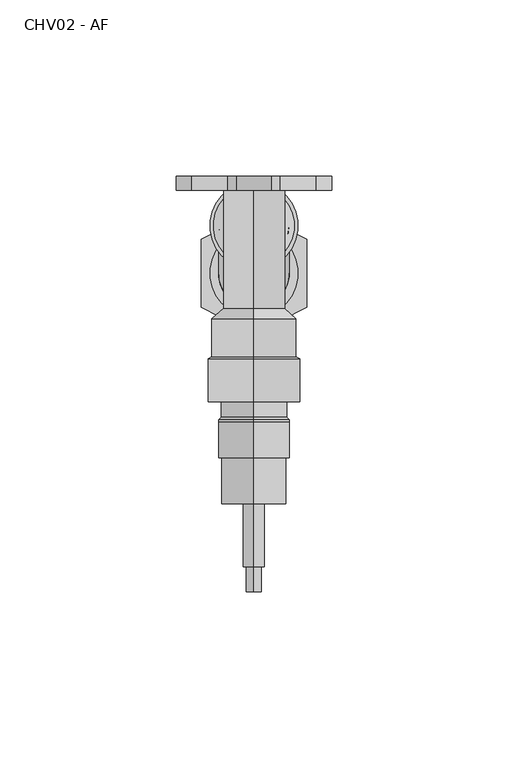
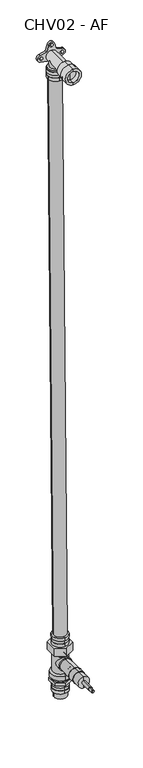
"""IFC4 building model written with IfcOpenShell, lengths in millimetres: pipe fitting geometry, CHV02 - AF : Chassi Chuveiro 02 - AF."""

from ifc_helpers import new_model, si_unit, point, frame, frame_2d, origin, origin_2d, place, context, project, spatial, polyline, circle_curve, ellipse_curve, trimmed, segment, composite_curve, outline, extrude, source, transform, mapped, element, save
from ifc_brep_helpers import plane_surface, cylinder_surface, revolved_surface, advanced_brep


def chv02_af_87dbff29(model_context):
    return source(origin(), model_context, "Body", "SolidModel", [
        advanced_brep(
        [(0.0, -24.4910234, 44.6482914), (0.0, -24.4910234, 55.0232914), (0.0, -24.4910234, 34.2732914), (0.0, -117.7176403, 42.5035697), (0.0, -117.7176403, 46.7930131), (0.0, -117.7176403, 44.6482914), (0.0, -110.6161301, 42.5035697), (0.0, -110.6161301, 46.7930131), (0.0, -110.6161301, 41.662148), (0.0, -110.6161301, 47.6344348), (0.0, -92.7176403, 41.662148), (0.0, -92.7176403, 47.6344348), (0.0, -92.7176403, 35.5095959), (0.0, -92.7176403, 53.7869869), (0.0, -79.6846586, 35.5095959), (0.0, -79.6846586, 53.7869869), (0.0, -79.6846586, 34.6395344), (0.0, -79.6846586, 54.6570485), (0.0, -69.6846586, 34.6395344), (0.0, -69.6846586, 54.6570485), (0.0, -68.8676403, 34.6395344), (0.0, -68.8676403, 54.6570485), (0.0, -68.1493117, 35.357863), (0.0, -68.1493117, 53.9387198), (0.0, -43.8022119, 35.357863), (0.0, -43.8022119, 53.9387198), (0.0, -42.7176403, 34.2732914), (0.0, -42.7176403, 55.0232914)],
        [
            (0, 1),
            (1, 2, circle_curve(frame((0.0, -24.4910234, 44.6482914), z_axis=(0.0, 1.0, 0.0), x_axis=(0.0, 0.0, 1.0)), 10.375)),
            (2, 0),
            (2, 1, circle_curve(frame((0.0, -24.4910234, 44.6482914), z_axis=(0.0, 1.0, 0.0), x_axis=(0.0, 0.0, 1.0)), 10.375)),
            (3, 4, circle_curve(frame((0.0, -117.7176403, 44.6482914), z_axis=(0.0, -1.0, 0.0), x_axis=(0.0, 0.0, 1.0)), 2.1447217)),
            (4, 5),
            (5, 3),
            (4, 3, circle_curve(frame((0.0, -117.7176403, 44.6482914), z_axis=(0.0, -1.0, 0.0), x_axis=(0.0, 0.0, 1.0)), 2.1447217)),
            (6, 7, circle_curve(frame((0.0, -110.6161301, 44.6482914), z_axis=(0.0, -1.0, 0.0), x_axis=(0.0, 0.0, 1.0)), 2.1447217)),
            (7, 4),
            (3, 6),
            (7, 6, circle_curve(frame((0.0, -110.6161301, 44.6482914), z_axis=(0.0, -1.0, 0.0), x_axis=(0.0, 0.0, 1.0)), 2.1447217)),
            (8, 9, circle_curve(frame((0.0, -110.6161301, 44.6482914), z_axis=(0.0, -1.0, 0.0), x_axis=(0.0, 0.0, 1.0)), 2.9861434)),
            (9, 7),
            (6, 8),
            (9, 8, circle_curve(frame((0.0, -110.6161301, 44.6482914), z_axis=(0.0, -1.0, 0.0), x_axis=(0.0, 0.0, 1.0)), 2.9861434)),
            (10, 11, circle_curve(frame((0.0, -92.7176403, 44.6482914), z_axis=(0.0, -1.0, 0.0), x_axis=(0.0, 0.0, 1.0)), 2.9861434)),
            (11, 9),
            (8, 10),
            (11, 10, circle_curve(frame((0.0, -92.7176403, 44.6482914), z_axis=(0.0, -1.0, 0.0), x_axis=(0.0, 0.0, 1.0)), 2.9861434)),
            (12, 13, circle_curve(frame((0.0, -92.7176403, 44.6482914), z_axis=(0.0, -1.0, 0.0), x_axis=(0.0, 0.0, 1.0)), 9.1386955)),
            (13, 11),
            (10, 12),
            (13, 12, circle_curve(frame((0.0, -92.7176403, 44.6482914), z_axis=(0.0, -1.0, 0.0), x_axis=(0.0, 0.0, 1.0)), 9.1386955)),
            (14, 15, circle_curve(frame((0.0, -79.6846586, 44.6482914), z_axis=(0.0, -1.0, 0.0), x_axis=(0.0, 0.0, 1.0)), 9.1386955)),
            (15, 13),
            (12, 14),
            (15, 14, circle_curve(frame((0.0, -79.6846586, 44.6482914), z_axis=(0.0, -1.0, 0.0), x_axis=(0.0, 0.0, 1.0)), 9.1386955)),
            (16, 17, circle_curve(frame((0.0, -79.6846586, 44.6482914), z_axis=(0.0, -1.0, 0.0), x_axis=(0.0, 0.0, 1.0)), 10.0087571)),
            (17, 15),
            (14, 16),
            (17, 16, circle_curve(frame((0.0, -79.6846586, 44.6482914), z_axis=(0.0, -1.0, 0.0), x_axis=(0.0, 0.0, 1.0)), 10.0087571)),
            (18, 19, circle_curve(frame((0.0, -69.6846586, 44.6482914), z_axis=(0.0, -1.0, 0.0), x_axis=(0.0, 0.0, 1.0)), 10.0087571)),
            (19, 17),
            (16, 18),
            (19, 18, circle_curve(frame((0.0, -69.6846586, 44.6482914), z_axis=(0.0, -1.0, 0.0), x_axis=(0.0, 0.0, 1.0)), 10.0087571)),
            (20, 21, circle_curve(frame((0.0, -68.8676403, 44.6482914), z_axis=(0.0, -1.0, 0.0), x_axis=(0.0, 0.0, 1.0)), 10.0087571)),
            (21, 19),
            (18, 20),
            (21, 20, circle_curve(frame((0.0, -68.8676403, 44.6482914), z_axis=(0.0, -1.0, 0.0), x_axis=(0.0, 0.0, 1.0)), 10.0087571)),
            (22, 23, circle_curve(frame((0.0, -68.1493117, 44.6482914), z_axis=(0.0, -1.0, 0.0), x_axis=(0.0, 0.0, 1.0)), 9.2904284)),
            (23, 21),
            (20, 22),
            (23, 22, circle_curve(frame((0.0, -68.1493117, 44.6482914), z_axis=(0.0, -1.0, 0.0), x_axis=(0.0, 0.0, 1.0)), 9.2904284)),
            (24, 25, circle_curve(frame((0.0, -43.8022119, 44.6482914), z_axis=(0.0, -1.0, 0.0), x_axis=(0.0, 0.0, 1.0)), 9.2904284)),
            (25, 23),
            (22, 24),
            (25, 24, circle_curve(frame((0.0, -43.8022119, 44.6482914), z_axis=(0.0, -1.0, 0.0), x_axis=(0.0, 0.0, 1.0)), 9.2904284)),
            (26, 27, circle_curve(frame((0.0, -42.7176403, 44.6482914), z_axis=(0.0, -1.0, 0.0), x_axis=(0.0, 0.0, 1.0)), 10.375)),
            (27, 25),
            (24, 26),
            (27, 26, circle_curve(frame((0.0, -42.7176403, 44.6482914), z_axis=(0.0, -1.0, 0.0), x_axis=(0.0, 0.0, 1.0)), 10.375)),
            (1, 27),
            (26, 2),
        ],
        [
            plane_surface(frame((0.0, -24.4910234, 44.6482914), z_axis=(0.0, 1.0, 0.0), x_axis=(0.0, 0.0, 1.0))),
            plane_surface(frame((0.0, -117.7176403, 44.6482914), z_axis=(0.0, -1.0, 0.0), x_axis=(0.0, 0.0, 1.0))),
            cylinder_surface(frame((0.0, -23.3678065, 44.6482914), z_axis=(0.0, 1.0, 0.0), x_axis=(0.0, 0.0, 1.0)), 2.1447217),
            plane_surface(frame((0.0, -110.6161301, 44.6482914), z_axis=(0.0, -1.0, 0.0), x_axis=(0.0, 0.0, 1.0))),
            cylinder_surface(frame((0.0, -23.3678065, 44.6482914), z_axis=(0.0, 1.0, 0.0), x_axis=(0.0, 0.0, 1.0)), 2.9861434),
            plane_surface(frame((0.0, -92.7176403, 44.6482914), z_axis=(0.0, -1.0, 0.0), x_axis=(0.0, 0.0, 1.0))),
            cylinder_surface(frame((0.0, -23.3678065, 44.6482914), z_axis=(0.0, 1.0, 0.0), x_axis=(0.0, 0.0, 1.0)), 9.1386955),
            plane_surface(frame((0.0, -79.6846586, 44.6482914), z_axis=(0.0, -1.0, 0.0), x_axis=(0.0, 0.0, 1.0))),
            cylinder_surface(frame((0.0, -23.3678065, 44.6482914), z_axis=(0.0, 1.0, 0.0), x_axis=(0.0, 0.0, 1.0)), 10.0087571),
            revolved_surface(polyline([(0.0, -68.8676403, 54.6570485), (0.0, -68.1493117, 53.9387198)]), (0.0, -23.3678065, 44.6482914), (0.0, 1.0, 0.0)),
            cylinder_surface(frame((0.0, -23.3678065, 44.6482914), z_axis=(0.0, 1.0, 0.0), x_axis=(0.0, 0.0, 1.0)), 9.2904284),
            revolved_surface(polyline([(0.0, -43.8022119, 53.9387198), (0.0, -42.7176403, 55.0232914)]), (0.0, -23.3678065, 44.6482914), (0.0, 1.0, 0.0)),
            cylinder_surface(frame((0.0, -23.3678065, 44.6482914), z_axis=(0.0, 1.0, 0.0), x_axis=(0.0, 0.0, 1.0)), 10.375),
        ],
        [
            (0, [[1, 2, 3]]),
            (0, [[-3, 4, -1]]),
            (1, [[5, 6, 7]]),
            (1, [[8, -7, -6]]),
            (2, [[9, 10, -5, 11]]),
            (2, [[12, -11, -8, -10]]),
            (3, [[13, 14, -9, 15]]),
            (3, [[16, -15, -12, -14]]),
            (4, [[17, 18, -13, 19]]),
            (4, [[20, -19, -16, -18]]),
            (5, [[21, 22, -17, 23]]),
            (5, [[24, -23, -20, -22]]),
            (6, [[25, 26, -21, 27]]),
            (6, [[28, -27, -24, -26]]),
            (7, [[29, 30, -25, 31]]),
            (7, [[32, -31, -28, -30]]),
            (8, [[33, 34, -29, 35]]),
            (8, [[36, -35, -32, -34]]),
            (8, [[37, 38, -33, 39]]),
            (8, [[40, -39, -36, -38]]),
            (9, [[41, 42, -37, 43]]),
            (9, [[44, -43, -40, -42]]),
            (10, [[45, 46, -41, 47]]),
            (10, [[48, -47, -44, -46]]),
            (11, [[49, 50, -45, 51]]),
            (11, [[52, -51, -48, -50]]),
            (12, [[-2, 53, -49, 54]]),
            (12, [[-4, -54, -52, -53]]),
        ],
    ),
        advanced_brep(
        [(0.0, -27.0832825, 69.7525317), (0.0, -37.7082825, 69.7525317), (0.0, -16.4582825, 69.7525317), (0.0, -16.4582825, 54.4338721), (0.0, -37.7082825, 54.4338721), (0.0, -27.0832825, 54.4338721), (0.0, -16.4582825, 60.130854), (0.0, -37.7082825, 60.130854)],
        [
            (0, 1),
            (1, 2, circle_curve(frame((0.0, -27.0832825, 69.7525317), z_axis=(0.0, 0.0, 1.0), x_axis=(0.0, -1.0, 0.0)), 10.625)),
            (2, 0),
            (2, 1, circle_curve(frame((0.0, -27.0832825, 69.7525317), z_axis=(0.0, 0.0, 1.0), x_axis=(0.0, -1.0, 0.0)), 10.625)),
            (3, 4, circle_curve(frame((0.0, -27.0832825, 54.4338721), z_axis=(0.0, 0.0, -1.0), x_axis=(0.0, -1.0, 0.0)), 10.625)),
            (4, 5),
            (5, 3),
            (4, 3, circle_curve(frame((0.0, -27.0832825, 54.4338721), z_axis=(0.0, 0.0, -1.0), x_axis=(0.0, -1.0, 0.0)), 10.625)),
            (6, 7, circle_curve(frame((0.0, -27.0832825, 60.130854), z_axis=(0.0, 0.0, -1.0), x_axis=(0.0, -1.0, 0.0)), 10.625)),
            (7, 4),
            (3, 6),
            (7, 6, circle_curve(frame((0.0, -27.0832825, 60.130854), z_axis=(0.0, 0.0, -1.0), x_axis=(0.0, -1.0, 0.0)), 10.625)),
            (1, 7),
            (6, 2),
        ],
        [
            plane_surface(frame((0.0, -27.0832825, 69.7525317), z_axis=(0.0, 0.0, 1.0), x_axis=(0.0, -1.0, 0.0))),
            plane_surface(frame((0.0, -27.0832825, 54.4338721), z_axis=(0.0, 0.0, -1.0), x_axis=(0.0, -1.0, 0.0))),
            cylinder_surface(frame((0.0, -27.0832825, 82.6346595), z_axis=(0.0, 0.0, 1.0), x_axis=(0.0, -1.0, 0.0)), 10.625),
        ],
        [
            (0, [[1, 2, 3]]),
            (0, [[-3, 4, -1]]),
            (1, [[5, 6, 7]]),
            (1, [[8, -7, -6]]),
            (2, [[9, 10, -5, 11]]),
            (2, [[12, -11, -8, -10]]),
            (2, [[-2, 13, -9, 14]]),
            (2, [[-4, -14, -12, -13]]),
        ],
    ),
        advanced_brep(
        [(0.0, -16.375, 56.4163834), (0.0, -40.075, 56.4163834), (0.0, -40.075, 27.7539392), (0.0, -16.375, 27.7539392), (0.0, -16.946055, 22.9930224), (0.0, -39.503945, 22.9930224), (0.0, -28.225, 22.9930224), (0.0, -16.946055, 18.3055097), (0.0, -39.503945, 18.3055097), (0.0, -13.125, 18.3055097), (0.0, -43.325, 18.3055097), (0.0, -13.125, 25.1984066), (0.0, -43.325, 25.1984066), (0.0, -28.225, 56.4163834)],
        [
            (0, 1, circle_curve(frame((0.0, -28.225, 56.4163834), z_axis=(0.0, 0.0, -1.0), x_axis=(0.0, -1.0, 0.0)), 11.85)),
            (1, 2),
            (2, 3, circle_curve(frame((0.0, -28.225, 27.7539392), z_axis=(0.0, 0.0, 1.0), x_axis=(0.0, -1.0, 0.0)), 11.85)),
            (3, 0),
            (1, 0, circle_curve(frame((0.0, -28.225, 56.4163834), z_axis=(0.0, 0.0, -1.0), x_axis=(0.0, -1.0, 0.0)), 11.85)),
            (3, 2, circle_curve(frame((0.0, -28.225, 27.7539392), z_axis=(0.0, 0.0, 1.0), x_axis=(0.0, -1.0, 0.0)), 11.85)),
            (4, 5, circle_curve(frame((0.0, -28.225, 22.9930224), z_axis=(0.0, 0.0, -1.0), x_axis=(0.0, -1.0, 0.0)), 11.278945)),
            (5, 6),
            (6, 4),
            (5, 4, circle_curve(frame((0.0, -28.225, 22.9930224), z_axis=(0.0, 0.0, -1.0), x_axis=(0.0, -1.0, 0.0)), 11.278945)),
            (7, 8, circle_curve(frame((0.0, -28.225, 18.3055097), z_axis=(0.0, 0.0, -1.0), x_axis=(0.0, -1.0, 0.0)), 11.278945)),
            (8, 5),
            (4, 7),
            (8, 7, circle_curve(frame((0.0, -28.225, 18.3055097), z_axis=(0.0, 0.0, -1.0), x_axis=(0.0, -1.0, 0.0)), 11.278945)),
            (9, 10, circle_curve(frame((0.0, -28.225, 18.3055097), z_axis=(0.0, 0.0, -1.0), x_axis=(0.0, -1.0, 0.0)), 15.1)),
            (10, 8),
            (7, 9),
            (10, 9, circle_curve(frame((0.0, -28.225, 18.3055097), z_axis=(0.0, 0.0, -1.0), x_axis=(0.0, -1.0, 0.0)), 15.1)),
            (11, 12, circle_curve(frame((0.0, -28.225, 25.1984066), z_axis=(0.0, 0.0, -1.0), x_axis=(0.0, -1.0, 0.0)), 15.1)),
            (12, 10),
            (9, 11),
            (12, 11, circle_curve(frame((0.0, -28.225, 25.1984066), z_axis=(0.0, 0.0, -1.0), x_axis=(0.0, -1.0, 0.0)), 15.1)),
            (2, 12),
            (11, 3),
            (13, 1),
            (0, 13),
        ],
        [
            cylinder_surface(frame((0.0, -28.225, 46.6975174), z_axis=(0.0, 0.0, 1.0), x_axis=(0.0, -1.0, 0.0)), 11.85),
            plane_surface(frame((0.0, -28.225, 22.9930224), z_axis=(0.0, 0.0, -1.0), x_axis=(0.0, -1.0, 0.0))),
            revolved_surface(polyline([(0.0, -39.503945, 22.9930224), (0.0, -39.503945, 18.3055097)]), (0.0, -28.225, 46.6975174), (0.0, 0.0, 1.0)),
            plane_surface(frame((0.0, -28.225, 18.3055097), z_axis=(0.0, 0.0, -1.0), x_axis=(0.0, -1.0, 0.0))),
            cylinder_surface(frame((0.0, -28.225, 46.6975174), z_axis=(0.0, 0.0, 1.0), x_axis=(0.0, -1.0, 0.0)), 15.1),
            revolved_surface(polyline([(0.0, -43.325, 25.1984066), (0.0, -40.075, 27.7539392)]), (0.0, -28.225, 46.6975174), (0.0, 0.0, 1.0)),
            plane_surface(frame((0.0, -28.225, 56.4163834), z_axis=(0.0, 0.0, 1.0), x_axis=(0.0, -1.0, 0.0))),
        ],
        [
            (0, [[1, 2, 3, 4]]),
            (0, [[5, -4, 6, -2]]),
            (1, [[7, 8, 9]]),
            (1, [[10, -9, -8]]),
            (2, [[11, 12, -7, 13]]),
            (2, [[14, -13, -10, -12]]),
            (3, [[15, 16, -11, 17]]),
            (3, [[18, -17, -14, -16]]),
            (4, [[19, 20, -15, 21]]),
            (4, [[22, -21, -18, -20]]),
            (5, [[-3, 23, -19, 24]]),
            (5, [[-6, -24, -22, -23]]),
            (6, [[25, -1, 26]]),
            (6, [[-26, -5, -25]]),
        ],
    ),
        advanced_brep(
        [(0.0, -37.4704065, 87.7525317), (0.0, -17.1704065, 87.7525317), (0.0, -14.8204065, 87.7525317), (0.0, -39.8204065, 87.7525317), (0.0, -37.4704065, 72.7525317), (0.0, -17.1704065, 72.7525317), (0.0, -39.8204065, 72.7525317), (0.0, -14.8204065, 72.7525317), (0.0, -14.8204065, 82.7525317), (0.0, -39.8204065, 82.7525317), (0.0, -39.8204065, 77.7525317), (0.0, -14.8204065, 77.7525317), (0.0, -15.3204065, 82.7525317), (0.0, -39.3204065, 82.7525317), (0.0, -15.3204065, 77.7525317), (0.0, -39.3204065, 77.7525317)],
        [
            (0, 1, circle_curve(frame((0.0, -27.3204065, 87.7525317), z_axis=(0.0, 0.0, -1.0), x_axis=(0.0, 1.0, 0.0)), 10.15)),
            (1, 2),
            (2, 3, circle_curve(frame((0.0, -27.3204065, 87.7525317), z_axis=(0.0, 0.0, 1.0), x_axis=(0.0, 1.0, 0.0)), 12.5)),
            (3, 0),
            (1, 0, circle_curve(frame((0.0, -27.3204065, 87.7525317), z_axis=(0.0, 0.0, -1.0), x_axis=(0.0, 1.0, 0.0)), 10.15)),
            (3, 2, circle_curve(frame((0.0, -27.3204065, 87.7525317), z_axis=(0.0, 0.0, 1.0), x_axis=(0.0, 1.0, 0.0)), 12.5)),
            (0, 4),
            (4, 5, circle_curve(frame((0.0, -27.3204065, 72.7525317), z_axis=(0.0, 0.0, -1.0), x_axis=(0.0, 1.0, 0.0)), 10.15)),
            (5, 1),
            (5, 4, circle_curve(frame((0.0, -27.3204065, 72.7525317), z_axis=(0.0, 0.0, -1.0), x_axis=(0.0, 1.0, 0.0)), 10.15)),
            (4, 6),
            (6, 7, circle_curve(frame((0.0, -27.3204065, 72.7525317), z_axis=(0.0, 0.0, -1.0), x_axis=(0.0, 1.0, 0.0)), 12.5)),
            (7, 5),
            (7, 6, circle_curve(frame((0.0, -27.3204065, 72.7525317), z_axis=(0.0, 0.0, -1.0), x_axis=(0.0, 1.0, 0.0)), 12.5)),
            (2, 8),
            (8, 9, circle_curve(frame((0.0, -27.3204065, 82.7525317), z_axis=(0.0, 0.0, 1.0), x_axis=(0.0, 1.0, 0.0)), 12.5)),
            (9, 3),
            (6, 10),
            (10, 11, circle_curve(frame((0.0, -27.3204065, 77.7525317), z_axis=(0.0, 0.0, -1.0), x_axis=(0.0, 1.0, 0.0)), 12.5)),
            (11, 7),
            (9, 8, circle_curve(frame((0.0, -27.3204065, 82.7525317), z_axis=(0.0, 0.0, 1.0), x_axis=(0.0, 1.0, 0.0)), 12.5)),
            (11, 10, circle_curve(frame((0.0, -27.3204065, 77.7525317), z_axis=(0.0, 0.0, -1.0), x_axis=(0.0, 1.0, 0.0)), 12.5)),
            (12, 13, circle_curve(frame((0.0, -27.3204065, 82.7525317), z_axis=(0.0, 0.0, 1.0), x_axis=(0.0, 1.0, 0.0)), 12.0)),
            (13, 9),
            (8, 12),
            (13, 12, circle_curve(frame((0.0, -27.3204065, 82.7525317), z_axis=(0.0, 0.0, 1.0), x_axis=(0.0, 1.0, 0.0)), 12.0)),
            (12, 14),
            (14, 15, circle_curve(frame((0.0, -27.3204065, 77.7525317), z_axis=(0.0, 0.0, 1.0), x_axis=(0.0, 1.0, 0.0)), 12.0)),
            (15, 13),
            (15, 14, circle_curve(frame((0.0, -27.3204065, 77.7525317), z_axis=(0.0, 0.0, 1.0), x_axis=(0.0, 1.0, 0.0)), 12.0)),
            (14, 11),
            (10, 15),
        ],
        [
            plane_surface(frame((0.0, -27.3204065, 87.7525317), z_axis=(0.0, 0.0, 1.0), x_axis=(0.0, 1.0, 0.0))),
            revolved_surface(polyline([(0.0, -17.1704065, 87.7525317), (0.0, -17.1704065, 72.7525317)]), (0.0, -27.3204065, 87.7525317), (0.0, 0.0, 1.0)),
            plane_surface(frame((0.0, -27.3204065, 72.7525317), z_axis=(0.0, 0.0, -1.0), x_axis=(0.0, 1.0, 0.0))),
            cylinder_surface(frame((0.0, -27.3204065, 87.7525317), z_axis=(0.0, 0.0, 1.0), x_axis=(0.0, 1.0, 0.0)), 12.5),
            plane_surface(frame((0.0, -27.3204065, 82.7525317), z_axis=(0.0, 0.0, -1.0), x_axis=(0.0, 1.0, 0.0))),
            cylinder_surface(frame((0.0, -27.3204065, 87.7525317), z_axis=(0.0, 0.0, 1.0), x_axis=(0.0, 1.0, 0.0)), 12.0),
            plane_surface(frame((0.0, -27.3204065, 77.7525317), z_axis=(0.0, 0.0, 1.0), x_axis=(0.0, 1.0, 0.0))),
        ],
        [
            (0, [[1, 2, 3, 4]]),
            (0, [[-2, 5, -4, 6]]),
            (1, [[-1, 7, 8, 9]]),
            (1, [[-5, -9, 10, -7]]),
            (2, [[-8, 11, 12, 13]]),
            (2, [[-10, -13, 14, -11]]),
            (3, [[-3, 15, 16, 17]]),
            (3, [[-12, 18, 19, 20]]),
            (3, [[-6, -17, 21, -15]]),
            (3, [[-14, -20, 22, -18]]),
            (4, [[23, 24, -16, 25]]),
            (4, [[26, -25, -21, -24]]),
            (5, [[-23, 27, 28, 29]]),
            (5, [[-26, -29, 30, -27]]),
            (6, [[-28, 31, -19, 32]]),
            (6, [[-30, -32, -22, -31]]),
        ],
    ),
        advanced_brep(
        [(0.0, -44.6408129, 59.7525317), (-15.0, -36.9986097, 59.7525317), (-15.0, -17.6422032, 59.7525317), (0.0, -10.0, 59.7525317), (15.0, -17.6422032, 59.7525317), (15.0, -36.9986097, 59.7525317), (0.0, -15.0704065, 59.7525317), (0.0, -39.5704065, 59.7525317), (0.0, -44.6408129, 72.7525317), (15.0, -36.9986097, 72.7525317), (15.0, -17.6422032, 72.7525317), (0.0, -10.0, 72.7525317), (-15.0, -17.6422032, 72.7525317), (-15.0, -36.9986097, 72.7525317), (0.0, -39.5704065, 69.7525317), (0.0, -15.0704065, 69.7525317), (0.0, -27.3204065, 69.7525317)],
        [
            (0, 1),
            (1, 2),
            (2, 3),
            (3, 4),
            (4, 5),
            (5, 0),
            (6, 7, circle_curve(frame((0.0, -27.3204065, 59.7525317), z_axis=(0.0, 0.0, 1.0), x_axis=(0.0, 1.0, 0.0)), 12.25)),
            (7, 6, circle_curve(frame((0.0, -27.3204065, 59.7525317), z_axis=(0.0, 0.0, 1.0), x_axis=(0.0, 1.0, 0.0)), 12.25)),
            (8, 9),
            (9, 10),
            (10, 11),
            (11, 12),
            (12, 13),
            (13, 8),
            (0, 8),
            (13, 1),
            (12, 2),
            (11, 3),
            (10, 4),
            (9, 5),
            (14, 7),
            (6, 15),
            (15, 14, circle_curve(frame((0.0, -27.3204065, 69.7525317), z_axis=(0.0, 0.0, 1.0), x_axis=(0.0, 1.0, 0.0)), 12.25)),
            (14, 15, circle_curve(frame((0.0, -27.3204065, 69.7525317), z_axis=(0.0, 0.0, 1.0), x_axis=(0.0, 1.0, 0.0)), 12.25)),
            (15, 16),
            (16, 14),
        ],
        [
            plane_surface(frame((0.0, -44.6408129, 59.7525317), z_axis=(0.0, 0.0, -1.0), x_axis=(-0.8910228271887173, 0.45395850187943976, 0.0))),
            plane_surface(frame((0.0, -44.6408129, 72.7525317), z_axis=(0.0, 0.0, 1.0), x_axis=(0.8910228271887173, -0.45395850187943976, 0.0))),
            plane_surface(frame((0.0, -44.6408129, 59.7525317), z_axis=(-0.45395850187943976, -0.8910228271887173, 0.0), x_axis=(0.0, 0.0, 1.0))),
            plane_surface(frame((-15.0, -36.9986097, 59.7525317), z_axis=(-1.0, 0.0, 0.0), x_axis=(0.0, 0.0, 1.0))),
            plane_surface(frame((-15.0, -17.6422032, 59.7525317), z_axis=(-0.4539585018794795, 0.891022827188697, 0.0), x_axis=(0.0, 0.0, 1.0))),
            plane_surface(frame((0.0, -10.0, 59.7525317), z_axis=(0.4539585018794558, 0.8910228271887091, 0.0), x_axis=(0.0, 0.0, 1.0))),
            plane_surface(frame((15.0, -17.6422032, 59.7525317), z_axis=(1.0, 0.0, 0.0), x_axis=(0.0, 0.0, 1.0))),
            plane_surface(frame((15.0, -36.9986097, 59.7525317), z_axis=(0.45395850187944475, -0.8910228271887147, 0.0), x_axis=(0.0, 0.0, 1.0))),
            revolved_surface(polyline([(0.0, -15.0704065, 69.7525317), (0.0, -15.0704065, 59.7525317)]), (0.0, -27.3204065, 69.7525317), (0.0, 0.0, 1.0)),
            plane_surface(frame((0.0, -27.3204065, 69.7525317), z_axis=(0.0, 0.0, -1.0), x_axis=(0.0, 1.0, 0.0))),
        ],
        [
            (0, [[1, 2, 3, 4, 5, 6], [7, 8]]),
            (1, [[9, 10, 11, 12, 13, 14]]),
            (2, [[-1, 15, -14, 16]]),
            (3, [[-2, -16, -13, 17]]),
            (4, [[-3, -17, -12, 18]]),
            (5, [[-4, -18, -11, 19]]),
            (6, [[-5, -19, -10, 20]]),
            (7, [[-6, -20, -9, -15]]),
            (8, [[21, -7, 22, 23]]),
            (8, [[-21, 24, -22, -8]]),
            (9, [[-23, 25, 26]]),
            (9, [[-24, -26, -25]]),
        ],
    ),
        advanced_brep(
        [(0.0, -38.2384573, -5.6015934), (0.0, -17.9384573, -5.6015934), (0.0, -15.5884573, -5.6015934), (0.0, -40.5884573, -5.6015934), (0.0, -38.2384573, 9.3984066), (0.0, -17.9384573, 9.3984066), (0.0, -40.5884573, 9.3984066), (0.0, -15.5884573, 9.3984066), (0.0, -15.5884573, -0.6015934), (0.0, -40.5884573, -0.6015934), (0.0, -40.5884573, 4.3984066), (0.0, -15.5884573, 4.3984066), (0.0, -16.0884573, -0.6015934), (0.0, -40.0884573, -0.6015934), (0.0, -16.0884573, 4.3984066), (0.0, -40.0884573, 4.3984066)],
        [
            (0, 1, circle_curve(frame((0.0, -28.0884573, -5.6015934), z_axis=(0.0, 0.0, 1.0), x_axis=(0.0, 1.0, 0.0)), 10.15)),
            (1, 2),
            (2, 3, circle_curve(frame((0.0, -28.0884573, -5.6015934), z_axis=(0.0, 0.0, -1.0), x_axis=(0.0, 1.0, 0.0)), 12.5)),
            (3, 0),
            (1, 0, circle_curve(frame((0.0, -28.0884573, -5.6015934), z_axis=(0.0, 0.0, 1.0), x_axis=(0.0, 1.0, 0.0)), 10.15)),
            (3, 2, circle_curve(frame((0.0, -28.0884573, -5.6015934), z_axis=(0.0, 0.0, -1.0), x_axis=(0.0, 1.0, 0.0)), 12.5)),
            (0, 4),
            (4, 5, circle_curve(frame((0.0, -28.0884573, 9.3984066), z_axis=(0.0, 0.0, 1.0), x_axis=(0.0, 1.0, 0.0)), 10.15)),
            (5, 1),
            (5, 4, circle_curve(frame((0.0, -28.0884573, 9.3984066), z_axis=(0.0, 0.0, 1.0), x_axis=(0.0, 1.0, 0.0)), 10.15)),
            (4, 6),
            (6, 7, circle_curve(frame((0.0, -28.0884573, 9.3984066), z_axis=(0.0, 0.0, 1.0), x_axis=(0.0, 1.0, 0.0)), 12.5)),
            (7, 5),
            (7, 6, circle_curve(frame((0.0, -28.0884573, 9.3984066), z_axis=(0.0, 0.0, 1.0), x_axis=(0.0, 1.0, 0.0)), 12.5)),
            (2, 8),
            (8, 9, circle_curve(frame((0.0, -28.0884573, -0.6015934), z_axis=(0.0, 0.0, -1.0), x_axis=(0.0, 1.0, 0.0)), 12.5)),
            (9, 3),
            (6, 10),
            (10, 11, circle_curve(frame((0.0, -28.0884573, 4.3984066), z_axis=(0.0, 0.0, 1.0), x_axis=(0.0, 1.0, 0.0)), 12.5)),
            (11, 7),
            (9, 8, circle_curve(frame((0.0, -28.0884573, -0.6015934), z_axis=(0.0, 0.0, -1.0), x_axis=(0.0, 1.0, 0.0)), 12.5)),
            (11, 10, circle_curve(frame((0.0, -28.0884573, 4.3984066), z_axis=(0.0, 0.0, 1.0), x_axis=(0.0, 1.0, 0.0)), 12.5)),
            (12, 13, circle_curve(frame((0.0, -28.0884573, -0.6015934), z_axis=(0.0, 0.0, -1.0), x_axis=(0.0, 1.0, 0.0)), 12.0)),
            (13, 9),
            (8, 12),
            (13, 12, circle_curve(frame((0.0, -28.0884573, -0.6015934), z_axis=(0.0, 0.0, -1.0), x_axis=(0.0, 1.0, 0.0)), 12.0)),
            (12, 14),
            (14, 15, circle_curve(frame((0.0, -28.0884573, 4.3984066), z_axis=(0.0, 0.0, -1.0), x_axis=(0.0, 1.0, 0.0)), 12.0)),
            (15, 13),
            (15, 14, circle_curve(frame((0.0, -28.0884573, 4.3984066), z_axis=(0.0, 0.0, -1.0), x_axis=(0.0, 1.0, 0.0)), 12.0)),
            (14, 11),
            (10, 15),
        ],
        [
            plane_surface(frame((0.0, -28.0884573, -5.6015934), z_axis=(0.0, 0.0, -1.0), x_axis=(0.0, 1.0, 0.0))),
            revolved_surface(polyline([(0.0, -17.938457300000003, -5.6015934), (0.0, -17.938457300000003, 9.398406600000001)]), (0.0, -28.0884573, -5.6015934), (0.0, 0.0, -1.0)),
            plane_surface(frame((0.0, -28.0884573, 9.3984066), z_axis=(0.0, 0.0, 1.0), x_axis=(0.0, 1.0, 0.0))),
            cylinder_surface(frame((0.0, -28.0884573, -5.6015934), z_axis=(0.0, 0.0, -1.0), x_axis=(0.0, 1.0, 0.0)), 12.5),
            plane_surface(frame((0.0, -28.0884573, -0.6015934), z_axis=(0.0, 0.0, 1.0), x_axis=(0.0, 1.0, 0.0))),
            cylinder_surface(frame((0.0, -28.0884573, -5.6015934), z_axis=(0.0, 0.0, -1.0), x_axis=(0.0, 1.0, 0.0)), 12.0),
            plane_surface(frame((0.0, -28.0884573, 4.3984066), z_axis=(0.0, 0.0, -1.0), x_axis=(0.0, 1.0, 0.0))),
        ],
        [
            (0, [[1, 2, 3, 4]]),
            (0, [[-2, 5, -4, 6]]),
            (1, [[-1, 7, 8, 9]]),
            (1, [[-5, -9, 10, -7]]),
            (2, [[-8, 11, 12, 13]]),
            (2, [[-10, -13, 14, -11]]),
            (3, [[-3, 15, 16, 17]]),
            (3, [[-12, 18, 19, 20]]),
            (3, [[-6, -17, 21, -15]]),
            (3, [[-14, -20, 22, -18]]),
            (4, [[23, 24, -16, 25]]),
            (4, [[26, -25, -21, -24]]),
            (5, [[-23, 27, 28, 29]]),
            (5, [[-26, -29, 30, -27]]),
            (6, [[-28, 31, -19, 32]]),
            (6, [[-30, -32, -22, -31]]),
        ],
    ),
        extrude(outline(polyline([(0.0, -43.6769145), (-13.5, -35.8826859), (-13.5, -20.2942286), (0.0, -12.5), (13.5, -20.2942286), (13.5, -35.8826859), (0.0, -43.6769145)])), frame((0.0, 0.0, 9.3984066), z_axis=(0.0, 0.0, 1.0), x_axis=(1.0, 0.0, 0.0)), (0.0, 0.0, 1.0), 5.0),
        advanced_brep(
        [(0.0, -41.2384573, 14.3984066), (0.0, -14.9384573, 14.3984066), (0.0, -14.9384573, 25.1984066), (0.0, -41.2384573, 25.1984066), (0.0, -38.4384573, 14.3984066), (0.0, -17.7384573, 14.3984066), (0.0, -38.4384573, 26.3984066), (0.0, -17.7384573, 26.3984066), (0.0, -40.0384573, 26.3984066), (0.0, -16.1384573, 26.3984066)],
        [
            (0, 1, circle_curve(frame((0.0, -28.0884573, 14.3984066), z_axis=(0.0, 0.0, 1.0), x_axis=(0.0, 1.0, 0.0)), 13.15)),
            (1, 2),
            (2, 3, circle_curve(frame((0.0, -28.0884573, 25.1984066), z_axis=(0.0, 0.0, -1.0), x_axis=(0.0, 1.0, 0.0)), 13.15)),
            (3, 0),
            (1, 0, circle_curve(frame((0.0, -28.0884573, 14.3984066), z_axis=(0.0, 0.0, 1.0), x_axis=(0.0, 1.0, 0.0)), 13.15)),
            (3, 2, circle_curve(frame((0.0, -28.0884573, 25.1984066), z_axis=(0.0, 0.0, -1.0), x_axis=(0.0, 1.0, 0.0)), 13.15)),
            (4, 5, circle_curve(frame((0.0, -28.0884573, 14.3984066), z_axis=(0.0, 0.0, 1.0), x_axis=(0.0, 1.0, 0.0)), 10.35)),
            (5, 1),
            (0, 4),
            (5, 4, circle_curve(frame((0.0, -28.0884573, 14.3984066), z_axis=(0.0, 0.0, 1.0), x_axis=(0.0, 1.0, 0.0)), 10.35)),
            (6, 7, circle_curve(frame((0.0, -28.0884573, 26.3984066), z_axis=(0.0, 0.0, 1.0), x_axis=(0.0, 1.0, 0.0)), 10.35)),
            (7, 5),
            (4, 6),
            (7, 6, circle_curve(frame((0.0, -28.0884573, 26.3984066), z_axis=(0.0, 0.0, 1.0), x_axis=(0.0, 1.0, 0.0)), 10.35)),
            (8, 9, circle_curve(frame((0.0, -28.0884573, 26.3984066), z_axis=(0.0, 0.0, 1.0), x_axis=(0.0, 1.0, 0.0)), 11.95)),
            (9, 7),
            (6, 8),
            (9, 8, circle_curve(frame((0.0, -28.0884573, 26.3984066), z_axis=(0.0, 0.0, 1.0), x_axis=(0.0, 1.0, 0.0)), 11.95)),
            (2, 9),
            (8, 3),
        ],
        [
            cylinder_surface(frame((0.0, -28.0884573, 14.3984066), z_axis=(0.0, 0.0, -1.0), x_axis=(0.0, 1.0, 0.0)), 13.15),
            plane_surface(frame((0.0, -28.0884573, 14.3984066), z_axis=(0.0, 0.0, -1.0), x_axis=(0.0, 1.0, 0.0))),
            revolved_surface(polyline([(0.0, -17.7384573, 14.3984066), (0.0, -17.7384573, 26.3984066)]), (0.0, -28.0884573, 14.3984066), (0.0, 0.0, -1.0)),
            plane_surface(frame((0.0, -28.0884573, 26.3984066), z_axis=(0.0, 0.0, 1.0), x_axis=(0.0, 1.0, 0.0))),
            revolved_surface(polyline([(0.0, -16.1384573, 26.3984066), (0.0, -14.9384573, 25.1984066)]), (0.0, -28.0884573, 14.3984066), (0.0, 0.0, -1.0)),
        ],
        [
            (0, [[1, 2, 3, 4]]),
            (0, [[5, -4, 6, -2]]),
            (1, [[7, 8, -1, 9]]),
            (1, [[10, -9, -5, -8]]),
            (2, [[11, 12, -7, 13]]),
            (2, [[14, -13, -10, -12]]),
            (3, [[15, 16, -11, 17]]),
            (3, [[18, -17, -14, -16]]),
            (4, [[-3, 19, -15, 20]]),
            (4, [[-6, -20, -18, -19]]),
        ],
    ),
        advanced_brep(
        [(0.0, -25.475, 1034.2016988), (0.0, -25.475, 1030.2016988), (0.0, -2.525, 1030.2016988), (0.0, -2.525, 1034.2016988), (0.0, -5.325, 1035.1016988), (0.0, -22.675, 1035.1016988), (0.0, -5.325, 1037.5266988), (8.675, -14.0, 1046.2016988), (0.0, -22.675, 1037.5266988), (-8.675, -14.0, 1046.2016988), (0.0, -14.0, 1030.2016988), (0.0, -64.0, 1036.7016988), (0.0, -64.0, 1033.2016988), (0.0, -64.0, 1059.2016988), (0.0, -64.0, 1055.7016988), (0.0, -56.0, 1055.7016988), (0.0, -56.0, 1036.7016988), (0.0, -4.0, 1037.5266988), (0.0, -4.0, 1046.2016988), (0.0, -4.0, 1054.8766988), (0.0, -37.5, 1054.8766988), (0.0, -37.5, 1037.5266988), (0.0, -40.5, 1058.2016988), (0.0, -40.5, 1034.2016988), (0.0, -51.2, 1058.2016988), (0.0, -51.2, 1034.2016988), (0.0, -51.7773503, 1059.2016988), (0.0, -51.7773503, 1033.2016988), (0.0, -56.0, 1046.2016988)],
        [
            (0, 1),
            (1, 2, circle_curve(frame((0.0, -14.0, 1030.2016988), z_axis=(0.0, 0.0, 1.0), x_axis=(0.0, 1.0, 0.0)), 11.475)),
            (2, 3),
            (3, 0, circle_curve(frame((0.0, -14.0, 1034.2016988), z_axis=(0.0, 0.0, -1.0), x_axis=(0.0, 1.0, 0.0)), 11.475)),
            (2, 1, circle_curve(frame((0.0, -14.0, 1030.2016988), z_axis=(0.0, 0.0, 1.0), x_axis=(0.0, 1.0, 0.0)), 11.475)),
            (0, 3, circle_curve(frame((0.0, -14.0, 1034.2016988), z_axis=(0.0, 0.0, -1.0), x_axis=(0.0, 1.0, 0.0)), 11.475)),
            (3, 4),
            (4, 5, circle_curve(frame((0.0, -14.0, 1035.1016988), z_axis=(0.0, 0.0, -1.0), x_axis=(0.0, 1.0, 0.0)), 8.675)),
            (5, 0),
            (5, 4, circle_curve(frame((0.0, -14.0, 1035.1016988), z_axis=(0.0, 0.0, -1.0), x_axis=(0.0, 1.0, 0.0)), 8.675)),
            (4, 6),
            (6, 7, ellipse_curve(frame((0.0, -14.0, 1046.2016988), z_axis=(0.0, -0.7071067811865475, -0.7071067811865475), x_axis=(0.0, -0.7071067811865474, 0.7071067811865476)), 12.2683027, 8.675)),
            (7, 8, ellipse_curve(frame((0.0, -14.0, 1046.2016988), z_axis=(0.0, 0.7071067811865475, -0.7071067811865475), x_axis=(0.0, 0.7071067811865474, 0.7071067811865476)), 12.2683027, 8.675)),
            (8, 5),
            (8, 9, ellipse_curve(frame((0.0, -14.0, 1046.2016988), z_axis=(0.0, 0.7071067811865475, -0.7071067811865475), x_axis=(0.0, 0.7071067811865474, 0.7071067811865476)), 12.2683027, 8.675)),
            (9, 6, ellipse_curve(frame((0.0, -14.0, 1046.2016988), z_axis=(0.0, -0.7071067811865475, -0.7071067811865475), x_axis=(0.0, -0.7071067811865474, 0.7071067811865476)), 12.2683027, 8.675)),
            (1, 10),
            (10, 2),
            (11, 12),
            (12, 13, circle_curve(frame((0.0, -64.0, 1046.2016988), z_axis=(0.0, -1.0, 0.0), x_axis=(0.0, 0.0, 1.0)), 13.0)),
            (13, 14),
            (14, 11, circle_curve(frame((0.0, -64.0, 1046.2016988), z_axis=(0.0, 1.0, 0.0), x_axis=(0.0, 0.0, 1.0)), 9.5)),
            (13, 12, circle_curve(frame((0.0, -64.0, 1046.2016988), z_axis=(0.0, -1.0, 0.0), x_axis=(0.0, 0.0, 1.0)), 13.0)),
            (11, 14, circle_curve(frame((0.0, -64.0, 1046.2016988), z_axis=(0.0, 1.0, 0.0), x_axis=(0.0, 0.0, 1.0)), 9.5)),
            (14, 15),
            (15, 16, circle_curve(frame((0.0, -56.0, 1046.2016988), z_axis=(0.0, 1.0, 0.0), x_axis=(0.0, 0.0, 1.0)), 9.5)),
            (16, 11),
            (16, 15, circle_curve(frame((0.0, -56.0, 1046.2016988), z_axis=(0.0, 1.0, 0.0), x_axis=(0.0, 0.0, 1.0)), 9.5)),
            (17, 18),
            (18, 19),
            (19, 17, circle_curve(frame((0.0, -4.0, 1046.2016988), z_axis=(0.0, 1.0, 0.0), x_axis=(0.0, 0.0, 1.0)), 8.675)),
            (17, 19, circle_curve(frame((0.0, -4.0, 1046.2016988), z_axis=(0.0, 1.0, 0.0), x_axis=(0.0, 0.0, 1.0)), 8.675)),
            (19, 20),
            (20, 21, circle_curve(frame((0.0, -37.5, 1046.2016988), z_axis=(0.0, 1.0, 0.0), x_axis=(0.0, 0.0, 1.0)), 8.675)),
            (21, 8),
            (6, 17),
            (21, 20, circle_curve(frame((0.0, -37.5, 1046.2016988), z_axis=(0.0, 1.0, 0.0), x_axis=(0.0, 0.0, 1.0)), 8.675)),
            (20, 22),
            (22, 23, circle_curve(frame((0.0, -40.5, 1046.2016988), z_axis=(0.0, 1.0, 0.0), x_axis=(0.0, 0.0, 1.0)), 12.0)),
            (23, 21),
            (23, 22, circle_curve(frame((0.0, -40.5, 1046.2016988), z_axis=(0.0, 1.0, 0.0), x_axis=(0.0, 0.0, 1.0)), 12.0)),
            (22, 24),
            (24, 25, circle_curve(frame((0.0, -51.2, 1046.2016988), z_axis=(0.0, 1.0, 0.0), x_axis=(0.0, 0.0, 1.0)), 12.0)),
            (25, 23),
            (25, 24, circle_curve(frame((0.0, -51.2, 1046.2016988), z_axis=(0.0, 1.0, 0.0), x_axis=(0.0, 0.0, 1.0)), 12.0)),
            (24, 26),
            (26, 27, circle_curve(frame((0.0, -51.7773503, 1046.2016988), z_axis=(0.0, 1.0, 0.0), x_axis=(0.0, 0.0, 1.0)), 13.0)),
            (27, 25),
            (27, 26, circle_curve(frame((0.0, -51.7773503, 1046.2016988), z_axis=(0.0, 1.0, 0.0), x_axis=(0.0, 0.0, 1.0)), 13.0)),
            (12, 27),
            (26, 13),
            (15, 28),
            (28, 16),
        ],
        [
            cylinder_surface(frame((0.0, -14.0, 1030.2016988), z_axis=(0.0, 0.0, 1.0), x_axis=(0.0, 1.0, 0.0)), 11.475),
            revolved_surface(polyline([(0.0, -2.525, 1034.2016988), (0.0, -5.325, 1035.1016988)]), (0.0, -14.0, 1030.2016988), (0.0, 0.0, 1.0)),
            cylinder_surface(frame((0.0, -14.0, 1030.2016988), z_axis=(0.0, 0.0, 1.0), x_axis=(0.0, 1.0, 0.0)), 8.675),
            plane_surface(frame((0.0, -14.0, 1030.2016988), z_axis=(0.0, 0.0, -1.0), x_axis=(0.0, 1.0, 0.0))),
            plane_surface(frame((0.0, -64.0, 1046.2016988), z_axis=(0.0, -1.0, 0.0), x_axis=(0.0, 0.0, 1.0))),
            revolved_surface(polyline([(0.0, -64.0, 1055.7016988), (0.0, -56.0, 1055.7016988)]), (0.0, -4.0, 1046.2016988), (0.0, -1.0, 0.0)),
            plane_surface(frame((0.0, -4.0, 1046.2016988), z_axis=(0.0, 1.0, 0.0), x_axis=(0.0, 0.0, 1.0))),
            cylinder_surface(frame((0.0, -4.0, 1046.2016988), z_axis=(0.0, -1.0, 0.0), x_axis=(0.0, 0.0, 1.0)), 8.675),
            revolved_surface(polyline([(0.0, -37.5, 1054.8766988), (0.0, -40.5, 1058.2016988)]), (0.0, -4.0, 1046.2016988), (0.0, -1.0, 0.0)),
            cylinder_surface(frame((0.0, -4.0, 1046.2016988), z_axis=(0.0, -1.0, 0.0), x_axis=(0.0, 0.0, 1.0)), 12.0),
            revolved_surface(polyline([(0.0, -51.2, 1058.2016988), (0.0, -51.7773503, 1059.2016988)]), (0.0, -4.0, 1046.2016988), (0.0, -1.0, 0.0)),
            cylinder_surface(frame((0.0, -4.0, 1046.2016988), z_axis=(0.0, -1.0, 0.0), x_axis=(0.0, 0.0, 1.0)), 13.0),
            plane_surface(frame((0.0, -56.0, 1046.2016988), z_axis=(0.0, -1.0, 0.0), x_axis=(0.0, 0.0, 1.0))),
        ],
        [
            (0, [[1, 2, 3, 4]]),
            (0, [[5, -1, 6, -3]]),
            (1, [[7, 8, 9, -4]]),
            (1, [[-9, 10, -7, -6]]),
            (2, [[11, 12, 13, 14, -8]]),
            (2, [[-14, 15, 16, -11, -10]]),
            (3, [[17, 18, -2]]),
            (3, [[-18, -17, -5]]),
            (4, [[19, 20, 21, 22]]),
            (4, [[23, -19, 24, -21]]),
            (5, [[25, 26, 27, -22]]),
            (5, [[-27, 28, -25, -24]]),
            (6, [[29, 30, 31]]),
            (6, [[-29, 32, -30]]),
            (7, [[33, 34, 35, -13, -12, 36, -31]]),
            (7, [[-36, -16, -15, -35, 37, -33, -32]]),
            (8, [[38, 39, 40, -34]]),
            (8, [[-40, 41, -38, -37]]),
            (9, [[42, 43, 44, -39]]),
            (9, [[-44, 45, -42, -41]]),
            (10, [[46, 47, 48, -43]]),
            (10, [[-48, 49, -46, -45]]),
            (11, [[50, -47, 51, -20]]),
            (11, [[-51, -49, -50, -23]]),
            (12, [[52, 53, -26]]),
            (12, [[-53, -52, -28]]),
        ],
    ),
        extrude(outline(composite_curve([segment(polyline([(1040.8059051, -17.6155562), (1037.6170131, -1.2485179)]), True, "CONTINUOUS"), segment(trimmed(circle_curve(frame_2d((1046.2016988, 0.0)), 8.675), [point((1037.6170131, -1.2485179))], [point((1037.6170131, 1.2485179))], False, "CARTESIAN"), True, "CONTINUOUS"), segment(polyline([(1037.6170131, 1.2485179), (1040.8059051, 17.6155562)]), True, "CONTINUOUS"), segment(trimmed(circle_curve(frame_2d((1046.2016988, 16.55)), 5.5), [point((1040.8059051, 17.6155562))], [point((1051.5967232, 17.6194444))], False, "CARTESIAN"), True, "CONTINUOUS"), segment(polyline([(1051.5967232, 17.6194444), (1054.319583, 7.4774357), (1064.3128099, 4.8749802)]), True, "CONTINUOUS"), segment(trimmed(circle_curve(frame_2d((1063.2016988, 0.0)), 5.0), [point((1064.3128099, 4.8749802))], [point((1064.3128099, -4.8749802))], False, "CARTESIAN"), True, "CONTINUOUS"), segment(polyline([(1064.3128099, -4.8749802), (1054.319583, -7.4774357), (1051.5967232, -17.6194444)]), True, "CONTINUOUS"), segment(trimmed(circle_curve(frame_2d((1046.2016988, -16.55)), 5.5), [point((1051.5967232, -17.6194444))], [point((1040.8059051, -17.6155562))], False, "CARTESIAN"), True, "CONTINUOUS")], self_intersect=False), holes=[composite_curve([segment(trimmed(circle_curve(frame_2d((1046.2016988, -16.55)), 2.5), [point((1043.7016988, -16.55))], [point((1048.7016988, -16.55))], True, "CARTESIAN"), True, "CONTINUOUS"), segment(trimmed(circle_curve(frame_2d((1046.2016988, -16.55)), 2.5), [point((1048.7016988, -16.55))], [point((1043.7016988, -16.55))], True, "CARTESIAN"), True, "CONTINUOUS")], self_intersect=False), composite_curve([segment(trimmed(circle_curve(frame_2d((1046.2016988, 16.55)), 2.5), [point((1043.7016988, 16.55))], [point((1048.7016988, 16.55))], True, "CARTESIAN"), True, "CONTINUOUS"), segment(trimmed(circle_curve(frame_2d((1046.2016988, 16.55)), 2.5), [point((1048.7016988, 16.55))], [point((1043.7016988, 16.55))], True, "CARTESIAN"), True, "CONTINUOUS")], self_intersect=False), composite_curve([segment(trimmed(circle_curve(frame_2d((1063.2016988, 0.0)), 2.5), [point((1060.7016988, 0.0))], [point((1065.7016988, 0.0))], True, "CARTESIAN"), True, "CONTINUOUS"), segment(trimmed(circle_curve(frame_2d((1063.2016988, 0.0)), 2.5), [point((1065.7016988, 0.0))], [point((1060.7016988, 0.0))], True, "CARTESIAN"), True, "CONTINUOUS")], self_intersect=False)]), frame((0.0, -4.0, 0.0), z_axis=(0.0, 1.0, 0.0), x_axis=(0.0, 0.0, 1.0)), (0.0, 0.0, 1.0), 4.0),
        advanced_brep(
        [(0.0, -3.85, 1017.2016988), (0.0, -1.5, 1017.2016988), (0.0, -26.5, 1017.2016988), (0.0, -24.15, 1017.2016988), (0.0, -24.15, 1032.2016988), (0.0, -3.85, 1032.2016988), (0.0, -26.5, 1032.2016988), (0.0, -1.5, 1032.2016988), (0.0, -1.5, 1022.2016988), (0.0, -26.5, 1022.2016988), (0.0, -26.5, 1027.2016988), (0.0, -1.5, 1027.2016988), (0.0, -26.0, 1022.2016988), (0.0, -2.0, 1022.2016988), (0.0, -2.0, 1027.2016988), (0.0, -26.0, 1027.2016988)],
        [
            (0, 1),
            (1, 2, circle_curve(frame((0.0, -14.0, 1017.2016988), z_axis=(0.0, 0.0, -1.0), x_axis=(0.0, -1.0, 0.0)), 12.5)),
            (2, 3),
            (3, 0, circle_curve(frame((0.0, -14.0, 1017.2016988), z_axis=(0.0, 0.0, 1.0), x_axis=(0.0, -1.0, 0.0)), 10.15)),
            (2, 1, circle_curve(frame((0.0, -14.0, 1017.2016988), z_axis=(0.0, 0.0, -1.0), x_axis=(0.0, -1.0, 0.0)), 12.5)),
            (0, 3, circle_curve(frame((0.0, -14.0, 1017.2016988), z_axis=(0.0, 0.0, 1.0), x_axis=(0.0, -1.0, 0.0)), 10.15)),
            (3, 4),
            (4, 5, circle_curve(frame((0.0, -14.0, 1032.2016988), z_axis=(0.0, 0.0, 1.0), x_axis=(0.0, -1.0, 0.0)), 10.15)),
            (5, 0),
            (5, 4, circle_curve(frame((0.0, -14.0, 1032.2016988), z_axis=(0.0, 0.0, 1.0), x_axis=(0.0, -1.0, 0.0)), 10.15)),
            (4, 6),
            (6, 7, circle_curve(frame((0.0, -14.0, 1032.2016988), z_axis=(0.0, 0.0, 1.0), x_axis=(0.0, -1.0, 0.0)), 12.5)),
            (7, 5),
            (7, 6, circle_curve(frame((0.0, -14.0, 1032.2016988), z_axis=(0.0, 0.0, 1.0), x_axis=(0.0, -1.0, 0.0)), 12.5)),
            (1, 8),
            (8, 9, circle_curve(frame((0.0, -14.0, 1022.2016988), z_axis=(0.0, 0.0, -1.0), x_axis=(0.0, -1.0, 0.0)), 12.5)),
            (9, 2),
            (6, 10),
            (10, 11, circle_curve(frame((0.0, -14.0, 1027.2016988), z_axis=(0.0, 0.0, 1.0), x_axis=(0.0, -1.0, 0.0)), 12.5)),
            (11, 7),
            (9, 8, circle_curve(frame((0.0, -14.0, 1022.2016988), z_axis=(0.0, 0.0, -1.0), x_axis=(0.0, -1.0, 0.0)), 12.5)),
            (11, 10, circle_curve(frame((0.0, -14.0, 1027.2016988), z_axis=(0.0, 0.0, 1.0), x_axis=(0.0, -1.0, 0.0)), 12.5)),
            (12, 9),
            (8, 13),
            (13, 12, circle_curve(frame((0.0, -14.0, 1022.2016988), z_axis=(0.0, 0.0, -1.0), x_axis=(0.0, -1.0, 0.0)), 12.0)),
            (12, 13, circle_curve(frame((0.0, -14.0, 1022.2016988), z_axis=(0.0, 0.0, -1.0), x_axis=(0.0, -1.0, 0.0)), 12.0)),
            (13, 14),
            (14, 15, circle_curve(frame((0.0, -14.0, 1027.2016988), z_axis=(0.0, 0.0, -1.0), x_axis=(0.0, -1.0, 0.0)), 12.0)),
            (15, 12),
            (15, 14, circle_curve(frame((0.0, -14.0, 1027.2016988), z_axis=(0.0, 0.0, -1.0), x_axis=(0.0, -1.0, 0.0)), 12.0)),
            (14, 11),
            (10, 15),
        ],
        [
            plane_surface(frame((0.0, -14.0, 1017.2016988), z_axis=(0.0, 0.0, -1.0), x_axis=(0.0, -1.0, 0.0))),
            revolved_surface(polyline([(0.0, -24.15, 1017.2016988), (0.0, -24.15, 1032.2016988)]), (0.0, -14.0, 1017.2016988), (0.0, 0.0, -1.0)),
            plane_surface(frame((0.0, -14.0, 1032.2016988), z_axis=(0.0, 0.0, 1.0), x_axis=(0.0, -1.0, 0.0))),
            cylinder_surface(frame((0.0, -14.0, 1017.2016988), z_axis=(0.0, 0.0, -1.0), x_axis=(0.0, -1.0, 0.0)), 12.5),
            plane_surface(frame((0.0, -14.0, 1022.2016988), z_axis=(0.0, 0.0, 1.0), x_axis=(0.0, -1.0, 0.0))),
            cylinder_surface(frame((0.0, -14.0, 1017.2016988), z_axis=(0.0, 0.0, -1.0), x_axis=(0.0, -1.0, 0.0)), 12.0),
            plane_surface(frame((0.0, -14.0, 1027.2016988), z_axis=(0.0, 0.0, -1.0), x_axis=(0.0, -1.0, 0.0))),
        ],
        [
            (0, [[1, 2, 3, 4]]),
            (0, [[5, -1, 6, -3]]),
            (1, [[7, 8, 9, -4]]),
            (1, [[-9, 10, -7, -6]]),
            (2, [[11, 12, 13, -8]]),
            (2, [[-13, 14, -11, -10]]),
            (3, [[15, 16, 17, -2]]),
            (3, [[18, 19, 20, -12]]),
            (3, [[-17, 21, -15, -5]]),
            (3, [[-20, 22, -18, -14]]),
            (4, [[23, -16, 24, 25]]),
            (4, [[-24, -21, -23, 26]]),
            (5, [[27, 28, 29, -25]]),
            (5, [[-29, 30, -27, -26]]),
            (6, [[31, -19, 32, -28]]),
            (6, [[-32, -22, -31, -30]]),
        ],
    ),
        extrude(outline(composite_curve([segment(trimmed(circle_curve(frame_2d((0.0, -28.0884573)), 10.0), [point((-10.0, -28.0884573))], [point((10.0, -28.0884573))], False, "CARTESIAN"), True, "CONTINUOUS"), segment(trimmed(circle_curve(frame_2d((0.0, -28.0884573)), 10.0), [point((10.0, -28.0884573))], [point((-10.0, -28.0884573))], False, "CARTESIAN"), True, "CONTINUOUS")], self_intersect=False)), frame((0.0, 0.0, -15.6015934), z_axis=(0.0, 0.0, 1.0), x_axis=(1.0, 0.0, 0.0)), (0.0, 0.0, 1.0), 10.0),
        extrude(outline(composite_curve([segment(trimmed(circle_curve(origin_2d(), 10.0), [point((-10.0, 0.0))], [point((10.0, 0.0))], False, "CARTESIAN"), True, "CONTINUOUS"), segment(trimmed(circle_curve(origin_2d(), 10.0), [point((10.0, 0.0))], [point((-10.0, 0.0))], False, "CARTESIAN"), True, "CONTINUOUS")], self_intersect=False)), frame((0.0, -27.3204065, 87.7525317), z_axis=(0.0, 0.014330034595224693, 0.9998973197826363), x_axis=(1.0, 0.0, 0.0)), (0.0, 0.0, 1.0), 929.5446129),
    ])


if __name__ == "__main__":
    model = new_model("IFC4")
    model_context = context("Model", 3, world=origin())
    ifc_project = project(units=[si_unit("LENGTHUNIT", "METRE", prefix="MILLI")], contexts=[model_context])
    site = spatial("IfcSite", under=ifc_project)
    building = spatial("IfcBuilding", under=site)
    placement = place(None, origin())
    chv02_af_shape = chv02_af_87dbff29(model_context)
    element("IfcPipeFitting", 1, ObjectType="CHV02 - AF : Chassi Chuveiro 02 - AF", at=placement, inside=building, context=model_context, shape_type="MappedRepresentation", body=[
        mapped(chv02_af_shape, transform((0.0, 0.0, 0.0), x_axis=(1.0, 0.0, 0.0), y_axis=(0.0, 1.0, 0.0), z_axis=(0.0, 0.0, 1.0))),
    ])
    save(model, "model.ifc")
